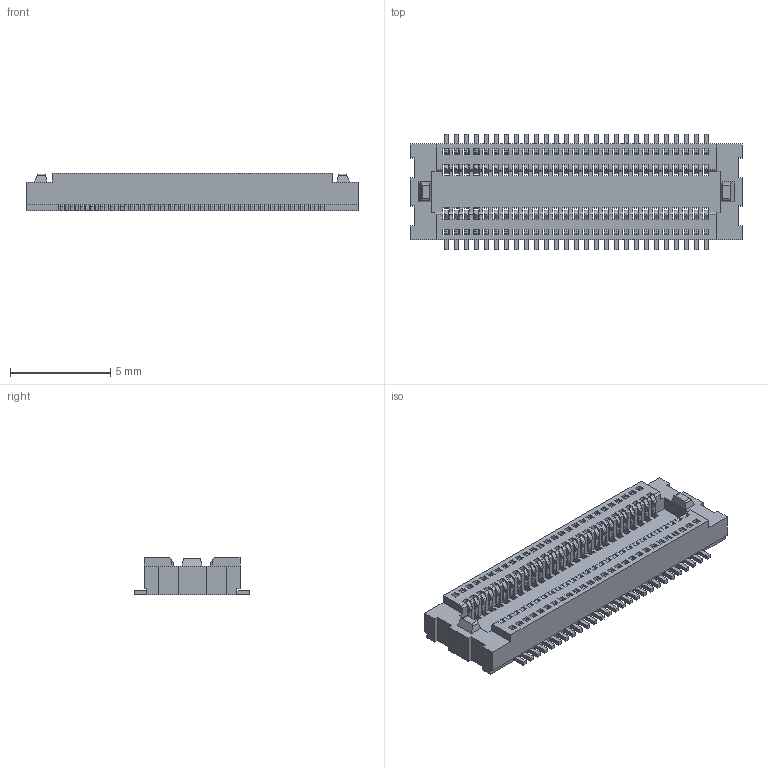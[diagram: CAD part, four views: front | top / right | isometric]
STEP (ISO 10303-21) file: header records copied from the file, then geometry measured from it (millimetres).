
FILE_DESCRIPTION(('CATIA V5 STEP Exchange'),'2;1');
FILE_NAME('F:\黄富鸿\板对板\0.5 单槽\无柱\母座\H1.85\HC-PBB05-1-54-F-H1.85-G1-R-06 (BTB0.5 单槽 母座 立贴 编带)-HCTL.stp','2026-01-21T08:09:30+00:00',('none'),('none'),'CATIA Version 5 Release 20 GA (IN-10)','CATIA V5 STEP AP203','none');
FILE_SCHEMA(('CONFIG_CONTROL_DESIGN'));
Products named in the file (1): Part2
Bounding box: 16.6 x 5.76 x 1.85 mm (x, y, z)
Volume: 90.7 mm3; surface area: 706.5 mm2
Topology: 55 solids, 55 shells, 2430 faces, 7442 edges, 4960 vertices
Faces by surface type: plane 1670, cylinder 760
Entity records: 70682 total; most frequent: ORIENTED_EDGE 14884, CARTESIAN_POINT 12691, DIRECTION 7854, EDGE_CURVE 7442, VECTOR 5922, LINE 5922, VERTEX_POINT 4960, EDGE_LOOP 2484
